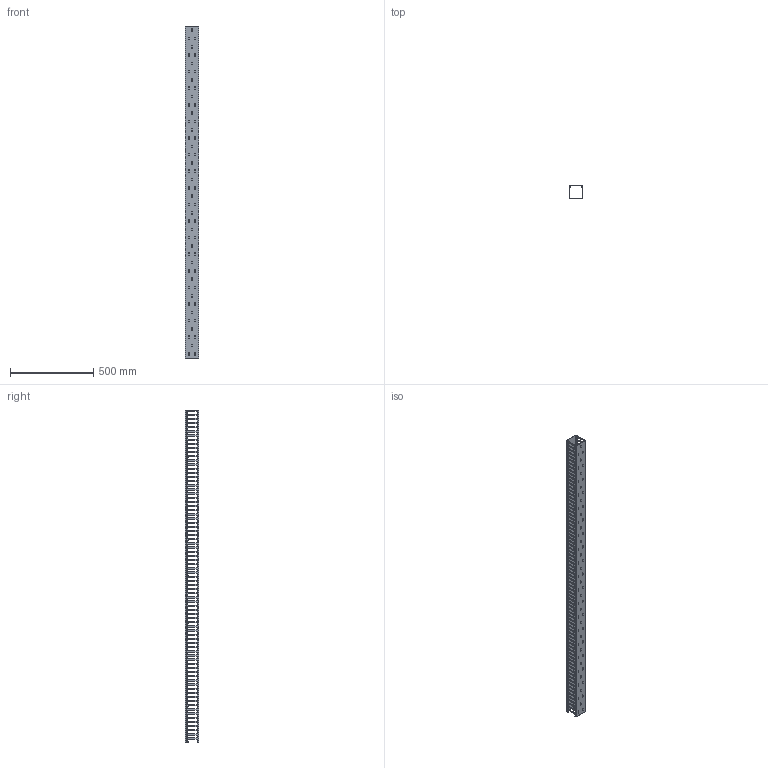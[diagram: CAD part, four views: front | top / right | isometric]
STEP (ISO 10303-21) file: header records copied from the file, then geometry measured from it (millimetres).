
FILE_DESCRIPTION (( 'STEP AP214' ), '1' );
FILE_NAME ('KD-88-20-LL.STEP', '2020-02-19T01:04:38', ( '' ), ( '' ), 'SwSTEP 2.0', 'SolidWorks 2018', '' );
FILE_SCHEMA (( 'AUTOMOTIVE_DESIGN' ));
Length unit declared in the file: millimetre
Products named in the file (3): KD-86-20-cover; KD-88-20-LL; KD-88-20-LL-body
Assembly tree (2 placements, depth 2):
  KD-88-20-LL
    KD-88-20-LL-body
    KD-86-20-cover
Bounding box: 80 x 80.17 x 2000 mm (x, y, z)
Volume: 887302 mm3; surface area: 1129287.6 mm2
Topology: 2 solids, 2 shells, 1643 faces, 4917 edges, 3278 vertices
Faces by surface type: cylinder 857, plane 786
Entity records: 56827 total; most frequent: DIRECTION 9927, CARTESIAN_POINT 9843, ORIENTED_EDGE 9834, EDGE_CURVE 4917, AXIS2_PLACEMENT_3D 3362, VERTEX_POINT 3278, VECTOR 3203, LINE 3203
